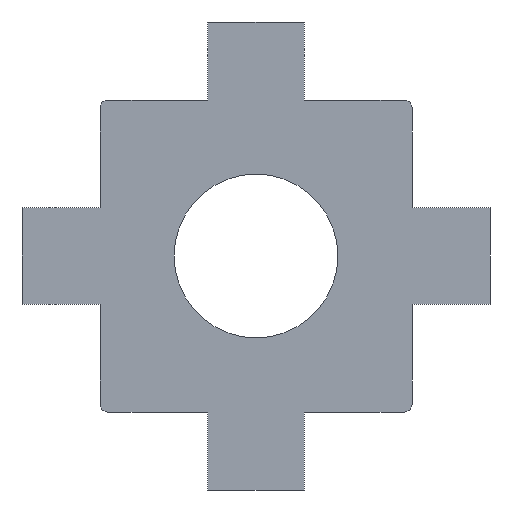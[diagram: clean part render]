
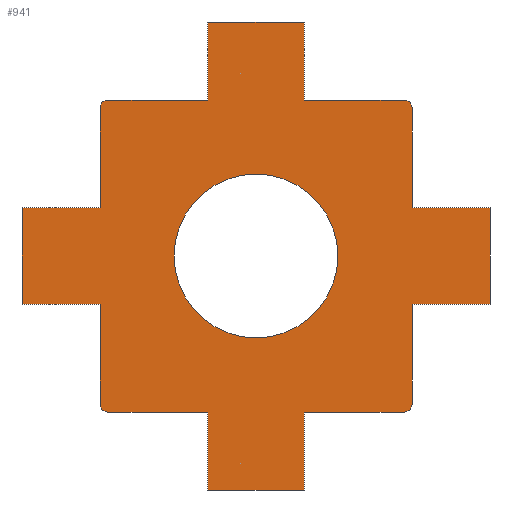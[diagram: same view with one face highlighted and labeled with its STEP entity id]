
A CAD part, front view. The second image highlights one B-rep face of the part: STEP entity #941.
In plain terms, the highlighted planar face has unit normal (0, -1, 0).
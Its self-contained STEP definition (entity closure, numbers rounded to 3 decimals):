
#80=FACE_BOUND('',#206,.T.);
#118=PLANE('',#1017);
#161=FACE_OUTER_BOUND('',#205,.T.);
#205=EDGE_LOOP('',(#869,#870,#871,#872,#873,#874,#875,#876,#877,#878,#879,
#880,#881,#882,#883,#884,#885,#886,#887,#888,#889,#890,#891,#892));
#206=EDGE_LOOP('',(#893));
#216=LINE('',#1308,#329);
#220=LINE('',#1315,#333);
#244=LINE('',#1370,#357);
#248=LINE('',#1377,#361);
#254=LINE('',#1391,#367);
#258=LINE('',#1398,#371);
#262=LINE('',#1408,#375);
#265=LINE('',#1415,#378);
#267=LINE('',#1418,#380);
#271=LINE('',#1427,#384);
#276=LINE('',#1438,#389);
#278=LINE('',#1441,#391);
#281=LINE('',#1447,#394);
#284=LINE('',#1454,#397);
#286=LINE('',#1457,#399);
#287=LINE('',#1459,#400);
#288=LINE('',#1460,#401);
#309=LINE('',#1504,#422);
#312=LINE('',#1511,#425);
#314=LINE('',#1514,#427);
#329=VECTOR('',#1056,10.);
#333=VECTOR('',#1060,10.);
#357=VECTOR('',#1098,10.);
#361=VECTOR('',#1102,10.);
#367=VECTOR('',#1114,10.);
#371=VECTOR('',#1118,10.);
#375=VECTOR('',#1128,10.);
#378=VECTOR('',#1135,10.);
#380=VECTOR('',#1139,10.);
#384=VECTOR('',#1145,10.);
#389=VECTOR('',#1154,10.);
#391=VECTOR('',#1158,10.);
#394=VECTOR('',#1163,10.);
#397=VECTOR('',#1170,10.);
#399=VECTOR('',#1174,10.);
#400=VECTOR('',#1177,10.);
#401=VECTOR('',#1178,10.);
#422=VECTOR('',#1225,10.);
#425=VECTOR('',#1232,10.);
#427=VECTOR('',#1236,10.);
#434=CIRCLE('',#967,5.25);
#436=CIRCLE('',#970,0.5);
#440=CIRCLE('',#977,0.5);
#441=CIRCLE('',#980,0.5);
#442=CIRCLE('',#983,0.5);
#444=VERTEX_POINT('',#1282);
#447=VERTEX_POINT('',#1289);
#448=VERTEX_POINT('',#1291);
#454=VERTEX_POINT('',#1305);
#455=VERTEX_POINT('',#1307);
#458=VERTEX_POINT('',#1313);
#478=VERTEX_POINT('',#1358);
#481=VERTEX_POINT('',#1367);
#482=VERTEX_POINT('',#1369);
#485=VERTEX_POINT('',#1375);
#486=VERTEX_POINT('',#1379);
#489=VERTEX_POINT('',#1388);
#490=VERTEX_POINT('',#1390);
#493=VERTEX_POINT('',#1396);
#494=VERTEX_POINT('',#1400);
#496=VERTEX_POINT('',#1406);
#498=VERTEX_POINT('',#1414);
#500=VERTEX_POINT('',#1421);
#502=VERTEX_POINT('',#1425);
#505=VERTEX_POINT('',#1435);
#506=VERTEX_POINT('',#1437);
#508=VERTEX_POINT('',#1445);
#510=VERTEX_POINT('',#1453);
#520=VERTEX_POINT('',#1502);
#522=VERTEX_POINT('',#1510);
#527=EDGE_CURVE('',#444,#444,#434,.T.);
#530=EDGE_CURVE('',#447,#448,#436,.T.);
#538=EDGE_CURVE('',#454,#455,#216,.T.);
#542=EDGE_CURVE('',#458,#447,#220,.T.);
#564=EDGE_CURVE('',#478,#454,#440,.T.);
#570=EDGE_CURVE('',#482,#481,#244,.T.);
#574=EDGE_CURVE('',#478,#485,#248,.T.);
#576=EDGE_CURVE('',#486,#481,#441,.T.);
#581=EDGE_CURVE('',#490,#489,#254,.T.);
#585=EDGE_CURVE('',#486,#493,#258,.T.);
#587=EDGE_CURVE('',#494,#489,#442,.T.);
#590=EDGE_CURVE('',#458,#496,#262,.T.);
#593=EDGE_CURVE('',#455,#498,#265,.T.);
#595=EDGE_CURVE('',#496,#498,#267,.T.);
#599=EDGE_CURVE('',#500,#502,#271,.T.);
#604=EDGE_CURVE('',#505,#506,#276,.T.);
#606=EDGE_CURVE('',#502,#506,#278,.T.);
#609=EDGE_CURVE('',#493,#508,#281,.T.);
#612=EDGE_CURVE('',#490,#510,#284,.T.);
#614=EDGE_CURVE('',#508,#510,#286,.T.);
#615=EDGE_CURVE('',#505,#448,#287,.T.);
#616=EDGE_CURVE('',#494,#500,#288,.T.);
#637=EDGE_CURVE('',#485,#520,#309,.T.);
#640=EDGE_CURVE('',#482,#522,#312,.T.);
#642=EDGE_CURVE('',#520,#522,#314,.T.);
#869=ORIENTED_EDGE('',*,*,#530,.F.);
#870=ORIENTED_EDGE('',*,*,#542,.F.);
#871=ORIENTED_EDGE('',*,*,#590,.T.);
#872=ORIENTED_EDGE('',*,*,#595,.T.);
#873=ORIENTED_EDGE('',*,*,#593,.F.);
#874=ORIENTED_EDGE('',*,*,#538,.F.);
#875=ORIENTED_EDGE('',*,*,#564,.F.);
#876=ORIENTED_EDGE('',*,*,#574,.T.);
#877=ORIENTED_EDGE('',*,*,#637,.T.);
#878=ORIENTED_EDGE('',*,*,#642,.T.);
#879=ORIENTED_EDGE('',*,*,#640,.F.);
#880=ORIENTED_EDGE('',*,*,#570,.T.);
#881=ORIENTED_EDGE('',*,*,#576,.F.);
#882=ORIENTED_EDGE('',*,*,#585,.T.);
#883=ORIENTED_EDGE('',*,*,#609,.T.);
#884=ORIENTED_EDGE('',*,*,#614,.T.);
#885=ORIENTED_EDGE('',*,*,#612,.F.);
#886=ORIENTED_EDGE('',*,*,#581,.T.);
#887=ORIENTED_EDGE('',*,*,#587,.F.);
#888=ORIENTED_EDGE('',*,*,#616,.T.);
#889=ORIENTED_EDGE('',*,*,#599,.T.);
#890=ORIENTED_EDGE('',*,*,#606,.T.);
#891=ORIENTED_EDGE('',*,*,#604,.F.);
#892=ORIENTED_EDGE('',*,*,#615,.T.);
#893=ORIENTED_EDGE('',*,*,#527,.T.);
#941=ADVANCED_FACE('',(#161,#80),#118,.T.);
#967=AXIS2_PLACEMENT_3D('',#1284,#1038,#1039);
#970=AXIS2_PLACEMENT_3D('',#1292,#1045,#1046);
#977=AXIS2_PLACEMENT_3D('',#1359,#1089,#1090);
#980=AXIS2_PLACEMENT_3D('',#1381,#1106,#1107);
#983=AXIS2_PLACEMENT_3D('',#1402,#1122,#1123);
#1017=AXIS2_PLACEMENT_3D('',#1526,#1250,#1251);
#1038=DIRECTION('center_axis',(0.,1.,0.));
#1039=DIRECTION('ref_axis',(1.,0.,0.));
#1045=DIRECTION('center_axis',(0.,1.,0.));
#1046=DIRECTION('ref_axis',(-0.707,0.,0.707));
#1056=DIRECTION('',(0.,0.,1.));
#1060=DIRECTION('',(0.,0.,1.));
#1089=DIRECTION('center_axis',(0.,1.,0.));
#1090=DIRECTION('ref_axis',(-0.707,0.,-0.707));
#1098=DIRECTION('',(1.,0.,0.));
#1102=DIRECTION('',(1.,0.,0.));
#1106=DIRECTION('center_axis',(0.,1.,0.));
#1107=DIRECTION('ref_axis',(0.707,0.,-0.707));
#1114=DIRECTION('',(0.,0.,1.));
#1118=DIRECTION('',(0.,0.,1.));
#1122=DIRECTION('center_axis',(0.,1.,0.));
#1123=DIRECTION('ref_axis',(0.707,0.,0.707));
#1128=DIRECTION('',(-1.,0.,0.));
#1135=DIRECTION('',(-1.,0.,0.));
#1139=DIRECTION('',(0.,0.,-1.));
#1145=DIRECTION('',(0.,0.,1.));
#1154=DIRECTION('',(0.,0.,1.));
#1158=DIRECTION('',(-1.,0.,0.));
#1163=DIRECTION('',(1.,0.,0.));
#1170=DIRECTION('',(1.,0.,0.));
#1174=DIRECTION('',(0.,0.,1.));
#1177=DIRECTION('',(-1.,0.,0.));
#1178=DIRECTION('',(-1.,0.,0.));
#1225=DIRECTION('',(0.,0.,-1.));
#1232=DIRECTION('',(0.,0.,-1.));
#1236=DIRECTION('',(1.,0.,0.));
#1250=DIRECTION('center_axis',(0.,-1.,0.));
#1251=DIRECTION('ref_axis',(1.,0.,0.));
#1282=CARTESIAN_POINT('',(-5.25,-10.,10.));
#1284=CARTESIAN_POINT('Origin',(0.,-10.,10.));
#1289=CARTESIAN_POINT('',(-10.,-10.,19.5));
#1291=CARTESIAN_POINT('',(-9.5,-10.,20.));
#1292=CARTESIAN_POINT('Origin',(-9.5,-10.,19.5));
#1305=CARTESIAN_POINT('',(-10.,-10.,0.5));
#1307=CARTESIAN_POINT('',(-10.,-10.,6.9));
#1308=CARTESIAN_POINT('',(-10.,-10.,0.));
#1313=CARTESIAN_POINT('',(-10.,-10.,13.1));
#1315=CARTESIAN_POINT('',(-10.,-10.,0.));
#1358=CARTESIAN_POINT('',(-9.5,-10.,0.));
#1359=CARTESIAN_POINT('Origin',(-9.5,-10.,0.5));
#1367=CARTESIAN_POINT('',(9.5,-10.,0.));
#1369=CARTESIAN_POINT('',(3.1,-10.,0.));
#1370=CARTESIAN_POINT('',(-10.,-10.,0.));
#1375=CARTESIAN_POINT('',(-3.1,-10.,0.));
#1377=CARTESIAN_POINT('',(-10.,-10.,0.));
#1379=CARTESIAN_POINT('',(10.,-10.,0.5));
#1381=CARTESIAN_POINT('Origin',(9.5,-10.,0.5));
#1388=CARTESIAN_POINT('',(10.,-10.,19.5));
#1390=CARTESIAN_POINT('',(10.,-10.,13.1));
#1391=CARTESIAN_POINT('',(10.,-10.,0.));
#1396=CARTESIAN_POINT('',(10.,-10.,6.9));
#1398=CARTESIAN_POINT('',(10.,-10.,0.));
#1400=CARTESIAN_POINT('',(9.5,-10.,20.));
#1402=CARTESIAN_POINT('Origin',(9.5,-10.,19.5));
#1406=CARTESIAN_POINT('',(-15.,-10.,13.1));
#1408=CARTESIAN_POINT('',(-10.,-10.,13.1));
#1414=CARTESIAN_POINT('',(-15.,-10.,6.9));
#1415=CARTESIAN_POINT('',(-10.,-10.,6.9));
#1418=CARTESIAN_POINT('',(-15.,-10.,0.));
#1421=CARTESIAN_POINT('',(3.1,-10.,20.));
#1425=CARTESIAN_POINT('',(3.1,-10.,25.));
#1427=CARTESIAN_POINT('',(3.1,-10.,20.));
#1435=CARTESIAN_POINT('',(-3.1,-10.,20.));
#1437=CARTESIAN_POINT('',(-3.1,-10.,25.));
#1438=CARTESIAN_POINT('',(-3.1,-10.,20.));
#1441=CARTESIAN_POINT('',(-10.,-10.,25.));
#1445=CARTESIAN_POINT('',(15.,-10.,6.9));
#1447=CARTESIAN_POINT('',(10.,-10.,6.9));
#1453=CARTESIAN_POINT('',(15.,-10.,13.1));
#1454=CARTESIAN_POINT('',(10.,-10.,13.1));
#1457=CARTESIAN_POINT('',(15.,-10.,20.));
#1459=CARTESIAN_POINT('',(10.,-10.,20.));
#1460=CARTESIAN_POINT('',(10.,-10.,20.));
#1502=CARTESIAN_POINT('',(-3.1,-10.,-5.));
#1504=CARTESIAN_POINT('',(-3.1,-10.,0.));
#1510=CARTESIAN_POINT('',(3.1,-10.,-5.));
#1511=CARTESIAN_POINT('',(3.1,-10.,0.));
#1514=CARTESIAN_POINT('',(10.,-10.,-5.));
#1526=CARTESIAN_POINT('Origin',(-10.,-10.,0.));
